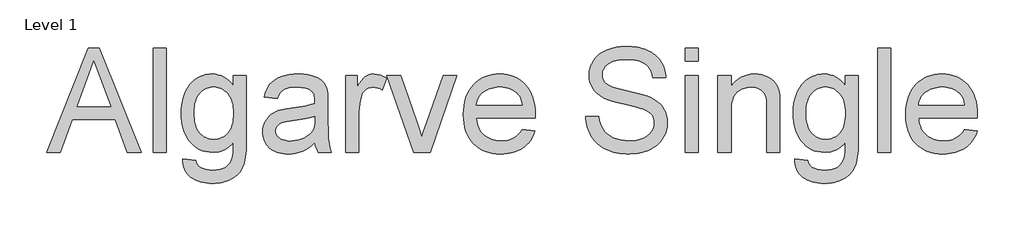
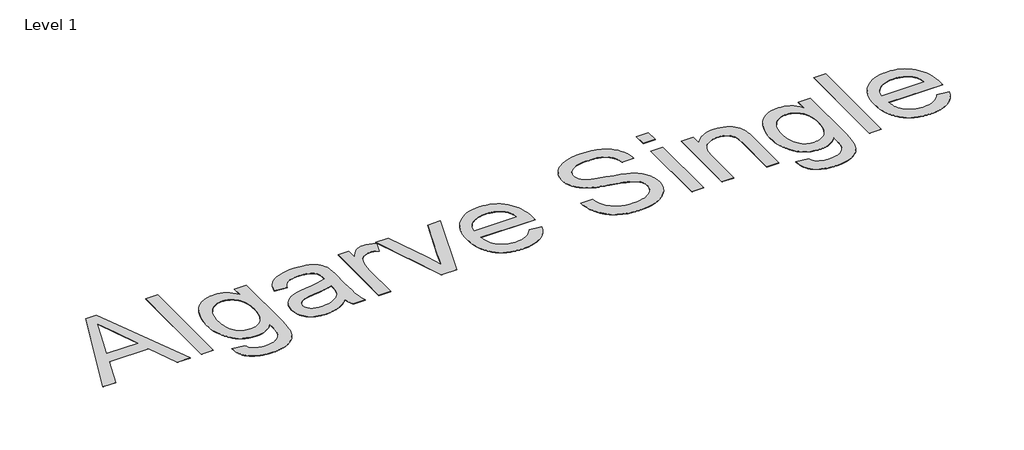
# One storey, part 26 of 47: 1 proxy.
"""IFC4 building model written with IfcOpenShell, lengths in millimetres."""

from ifc_helpers import new_model, si_unit, origin, origin_with_axes, place, context, project, spatial, polyline, outline, extrude, element, save

model = new_model("IFC4")

# Units and contexts
model_context = context("Model", 3, world=origin())
ifc_project = project(units=[si_unit("LENGTHUNIT", "METRE", prefix="MILLI")], contexts=[model_context])

# Site, building, storey
site = spatial("IfcSite", under=ifc_project)
building = spatial("IfcBuilding", under=site)
storey = spatial("IfcBuildingStorey", under=building, Name="Level 1", Elevation=0.0)

# Proxy
placement = place(None, origin())
element("IfcBuildingElementProxy", 1, Name="2500 mm Arial", ObjectType="2500 mm Arial", at=placement, inside=storey, context=model_context, shape_type="SweptSolid", body=[
    extrude(outline(polyline([(-19127.7672329, 76741.8832107), (-18125.288796, 79253.2909644), (-17857.9612129, 79253.2909644), (-16855.482776, 76741.8832107), (-17187.1897083, 76741.8832107), (-17474.7508012, 77526.6981337), (-18509.1123443, 77526.6981337), (-18796.0603006, 76741.8832107), (-19127.7672329, 76741.8832107)]), holes=[polyline([(-18393.8426525, 77840.6241029), (-17589.4073564, 77840.6241029), (-17815.6547834, 78458.0527182), (-17991.6250045, 78939.3649952), (-18147.9748524, 78512.0087441), (-18393.8426525, 77840.6241029)])]), origin_with_axes(), (0.0, 0.0, 1.0), 5.0),
    extrude(outline(polyline([(-16559.3377699, 76741.8832107), (-16559.3377699, 79253.2909644), (-16245.4118007, 79253.2909644), (-16245.4118007, 76741.8832107), (-16559.3377699, 76741.8832107)])), origin_with_axes(), (0.0, 0.0, 1.0), 5.0),
    extrude(outline(polyline([(-15853.0043392, 76584.9202261), (-15539.0783699, 76545.6794799), (-15525.8192897, 76492.7964431), (-15504.4361487, 76447.5776145), (-15474.928947, 76410.0229942), (-15437.2976846, 76380.1325821), (-15376.4055502, 76349.5523912), (-15305.3200188, 76327.7093978), (-15224.0410905, 76314.6036017), (-15132.5687653, 76310.235003), (-15034.543542, 76315.1784173), (-14948.3211994, 76330.0086602), (-14909.6361083, 76341.1313424), (-14873.9017374, 76354.7257318), (-14841.1180867, 76370.7918283), (-14811.2851562, 76389.329632), (-14759.1685402, 76432.8623347), (-14716.2489741, 76484.3658141), (-14682.5264578, 76543.8400699), (-14658.0009915, 76611.2851024), (-14647.9225577, 76666.812291), (-14640.9864492, 76746.3284514), (-14637.1926661, 76849.8335836), (-14636.5412084, 76977.3276876), (-14687.2591064, 76922.1453883), (-14741.0043667, 76874.3207289), (-14797.7769891, 76833.8537095), (-14857.5769739, 76800.7443299), (-14920.4043209, 76774.9925902), (-14986.2590301, 76756.5984905), (-15055.1411016, 76745.5620306), (-15127.0505353, 76741.8832107), (-15215.6823134, 76746.165587), (-15299.1694917, 76759.0127161), (-15377.5120703, 76780.4245978), (-15450.710049, 76810.4012323), (-15518.763428, 76848.9426194), (-15581.6722072, 76896.0487593), (-15639.4363866, 76951.7196518), (-15692.0559663, 77015.9552971), (-15738.975291, 77086.178605), (-15779.6387059, 77159.8124856), (-15814.0462107, 77236.8569389), (-15842.1978056, 77317.3119648), (-15864.0934905, 77401.1775634), (-15879.7332654, 77488.4537346), (-15889.1171303, 77579.1404786), (-15892.2450853, 77673.2377951), (-15886.6310528, 77802.5138275), (-15869.7889552, 77926.6931614), (-15841.7187925, 78045.7757968), (-15802.4205648, 78159.7617338), (-15778.7094206, 78213.8949945), (-15752.4882482, 78264.8571891), (-15723.7570476, 78312.6483176), (-15692.5158188, 78357.2683799), (-15658.7645618, 78398.7173761), (-15622.5032766, 78436.9953061), (-15583.7319632, 78472.1021699), (-15542.4506216, 78504.0379676), (-15498.9801905, 78532.4913406), (-15453.6416087, 78557.1509306), (-15406.4348761, 78578.0167375), (-15357.3599927, 78595.0887614), (-15306.4169586, 78608.3670021), (-15253.6057738, 78617.8514598), (-15198.9264382, 78623.5421344), (-15142.3789518, 78625.439026), (-15067.2792914, 78621.1470694), (-14995.5710431, 78608.2711995), (-14927.254207, 78586.8114165), (-14862.328783, 78556.7677202), (-14800.7947711, 78518.1401107), (-14742.6521714, 78470.928588), (-14687.9009839, 78415.1331521), (-14636.5412084, 78350.7538029), (-14636.5412084, 78586.1982798), (-14322.6152392, 78586.1982798), (-14322.6152392, 76993.8823774), (-14327.980185, 76794.3638765), (-14334.6863672, 76706.3739759), (-14344.0750223, 76626.2303084), (-14356.1461502, 76553.9328742), (-14370.8997511, 76489.481673), (-14388.3358248, 76432.8767051), (-14408.4543714, 76384.1179704), (-14431.480527, 76340.4559341), (-14457.6394278, 76299.1410616), (-14486.9310736, 76260.1733528), (-14519.3554646, 76223.5528079), (-14554.9126006, 76189.2794267), (-14593.6024818, 76157.3532093), (-14635.4251081, 76127.7741556), (-14680.3804795, 76100.5422657), (-14728.2482501, 76076.112602), (-14778.8080738, 76054.9402268), (-14832.0599506, 76037.02514), (-14888.0038806, 76022.3673418), (-14946.6398637, 76010.966832), (-15007.9678999, 76002.8236108), (-15071.9879893, 75997.937678), (-15138.7001319, 75996.3090338), (-15217.5408839, 75998.6035061), (-15292.5016306, 76005.4869231), (-15363.5823718, 76016.9592848), (-15430.7831076, 76033.0205912), (-15494.103838, 76053.6708423), (-15553.544563, 76078.910038), (-15609.1052825, 76108.7381784), (-15660.7859967, 76143.1552635), (-15707.3125308, 76182.1804538), (-15747.4107102, 76225.8329098), (-15781.080535, 76274.1126316), (-15808.3220052, 76327.019619), (-15829.1351206, 76384.5538722), (-15843.5198815, 76446.7153911), (-15851.4762876, 76513.5041757), (-15853.0043392, 76584.9202261)]), holes=[polyline([(-15578.3191161, 77694.6975782), (-15576.2258292, 77614.2760832), (-15569.9459686, 77539.4782009), (-15559.4795342, 77470.3039315), (-15544.8265261, 77406.7532749), (-15525.9869443, 77348.826231), (-15502.9607886, 77296.5228), (-15475.7480593, 77249.8429817), (-15444.3487562, 77208.7867762), (-15409.7879672, 77172.9326521), (-15373.0907801, 77141.8590778), (-15334.2571951, 77115.5660535), (-15293.2872119, 77094.053579), (-15250.1808307, 77077.3216544), (-15204.9380515, 77065.3702797), (-15157.5588742, 77058.1994548), (-15108.0432989, 77055.8091799), (-15059.0737985, 77058.1850844), (-15012.1065724, 77065.3127981), (-14967.1416207, 77077.1923209), (-14924.1789434, 77093.8236527), (-14883.2185406, 77115.2067937), (-14844.2604121, 77141.3417438), (-14807.304558, 77172.2285029), (-14772.3509783, 77207.8670712), (-14740.5205635, 77248.5927577), (-14712.934204, 77294.7408716), (-14689.5918998, 77346.3114127), (-14670.4936509, 77403.3043812), (-14655.6394573, 77465.719777), (-14645.0293191, 77533.5576001), (-14638.6632361, 77606.8178505), (-14636.5412084, 77685.5005283), (-14638.7255078, 77760.6816209), (-14645.2784058, 77831.1013242), (-14656.1999026, 77896.7596381), (-14671.489998, 77957.6565627), (-14691.1486921, 78013.7920978), (-14715.1759849, 78065.1662436), (-14743.5718764, 78111.7790001), (-14776.3363666, 78153.6303672), (-14812.1761204, 78190.6341225), (-14849.7978025, 78222.7040439), (-14889.2014131, 78249.8401311), (-14930.3869521, 78272.0423844), (-14973.3544195, 78289.3108035), (-15018.1038153, 78301.6453887), (-15064.6351396, 78309.0461397), (-15112.9483922, 78311.5130568), (-15160.4808536, 78309.0844608), (-15206.2026459, 78301.7986728), (-15250.1137689, 78289.6556929), (-15292.2142228, 78272.655521), (-15332.5040074, 78250.7981572), (-15370.9831229, 78224.0836013), (-15407.6515691, 78192.5118536), (-15442.5093462, 78156.0829138), (-15474.339761, 78114.8734242), (-15501.9261205, 78068.9600267), (-15525.2684247, 78018.3427215), (-15544.3666736, 77963.0215084), (-15559.2208672, 77902.9963876), (-15569.8310055, 77838.2673589), (-15576.1970884, 77768.8344224), (-15578.3191161, 77694.6975782)])]), origin_with_axes(), (0.0, 0.0, 1.0), 5.0),
    extrude(outline(polyline([(-12674.5039008, 76977.3276876), (-12748.9425233, 76907.4684295), (-12824.492456, 76848.7222734), (-12901.1536988, 76801.0892193), (-12978.9262518, 76764.569267), (-13058.691499, 76737.4762909), (-13141.3308243, 76718.1241652), (-13226.8442277, 76706.5128897), (-13315.2317091, 76702.6424645), (-13387.2704764, 76704.9704678), (-13455.0077067, 76711.9544775), (-13518.4434003, 76723.5944938), (-13577.5775569, 76739.8905165), (-13632.4101767, 76760.8425458), (-13682.9412596, 76786.4505815), (-13729.1708056, 76816.7146238), (-13771.0988148, 76851.6346726), (-13808.389978, 76890.1760597), (-13840.7089861, 76931.3041171), (-13868.0558391, 76975.0188449), (-13890.430537, 77021.3202428), (-13907.8330798, 77070.2083111), (-13920.2634675, 77121.6830497), (-13927.7217002, 77175.7444585), (-13930.2077777, 77232.3925376), (-13926.4523157, 77298.9561861), (-13915.1859296, 77362.5307934), (-13896.4086194, 77423.1163595), (-13870.1203852, 77480.7128843), (-13837.7199449, 77534.0557736), (-13800.6060165, 77581.880433), (-13758.7786001, 77624.1868624), (-13712.2376956, 77660.975062), (-13661.8263659, 77692.9348103), (-13608.387674, 77720.7558862), (-13551.9216199, 77744.4382896), (-13492.4282034, 77763.9820206), (-13379.4577741, 77788.0476345), (-13220.8086637, 77811.1935433), (-13048.1340522, 77834.9525888), (-12899.8316229, 77860.8576127), (-12775.9013758, 77888.9086148), (-12676.3433108, 77919.1055952), (-12674.5039008, 77989.0031743), (-12679.9071676, 78065.1087621), (-12686.6612511, 78098.6205126), (-12696.1169681, 78129.1049008), (-12708.2743184, 78156.5619268), (-12723.1333021, 78180.9915906), (-12740.6939192, 78202.393892), (-12760.9561697, 78220.7688313), (-12791.8620894, 78242.0370091), (-12826.3318659, 78260.4694299), (-12864.3654993, 78276.0660937), (-12905.9629895, 78288.8270004), (-12951.1243365, 78298.7521501), (-12999.8495403, 78305.8415427), (-13107.9915185, 78311.5130568), (-13208.5459305, 78307.7384342), (-13294.9981994, 78296.4145665), (-13367.3483251, 78277.5414538), (-13398.2350843, 78265.2739305), (-13425.5963077, 78251.1190959), (-13450.3612805, 78234.559616), (-13473.4592881, 78215.0781567), (-13514.6544073, 78167.3492999), (-13549.1816654, 78107.9325256), (-13577.0410623, 78036.8278337), (-13890.9670316, 78076.0685798), (-13867.0738624, 78166.506237), (-13836.474511, 78247.7468443), (-13799.1689774, 78319.7904017), (-13755.1572617, 78382.6369092), (-13702.5424721, 78437.5509612), (-13639.4277174, 78485.797152), (-13565.8129973, 78527.3754816), (-13481.6983119, 78562.2859501), (-13388.7889476, 78589.9154208), (-13288.7901907, 78609.650757), (-13181.7020412, 78621.4919587), (-13067.524499, 78625.439026), (-12955.9144666, 78621.9518112), (-12855.302573, 78611.490167), (-12765.6888183, 78594.0540933), (-12687.0732023, 78569.64359), (-12618.8042675, 78539.9639437), (-12560.2305561, 78506.7204405), (-12511.3520681, 78469.9130804), (-12472.1688035, 78429.5418635), (-12440.4006604, 78384.6104428), (-12413.7675368, 78334.122471), (-12392.2694327, 78278.0779483), (-12375.9063481, 78216.4768747), (-12369.2001659, 78169.4186361), (-12364.4100357, 78107.9516861), (-12360.5779316, 77941.7916516), (-12360.5779316, 77551.2236001), (-12356.5925433, 77211.0093966), (-12351.610808, 77091.5435508), (-12344.6363785, 77005.8385422), (-12334.7495499, 76937.7228915), (-12321.0306171, 76871.0251194), (-12303.4795803, 76805.7452258), (-12282.0964393, 76741.8832107), (-12596.0224085, 76741.8832107), (-12623.9201265, 76794.306395), (-12646.2996145, 76851.0215359), (-12663.1608727, 76912.0286334), (-12674.5039008, 76977.3276876)]), holes=[polyline([(-12674.5039008, 77605.179626), (-12769.3867988, 77578.0100078), (-12885.4229114, 77552.9097259), (-13022.6122388, 77529.8787801), (-13180.9547809, 77508.9171706), (-13343.8192058, 77484.8515568), (-13404.3856114, 77471.7840817), (-13451.041479, 77458.026828), (-13488.4619757, 77442.27688), (-13521.3222685, 77423.2313226), (-13549.6223574, 77400.8901556), (-13573.3622424, 77375.253379), (-13592.1395526, 77347.2406979), (-13605.551917, 77317.7718173), (-13613.5993356, 77286.8467371), (-13616.2818085, 77254.4654573), (-13610.4378497, 77205.6827719), (-13592.9059734, 77161.115401), (-13563.6861795, 77120.7633447), (-13522.778468, 77084.6266028), (-13498.0374458, 77068.6754695), (-13470.5660495, 77054.8511539), (-13407.4321341, 77033.582976), (-13333.3767221, 77020.8220693), (-13248.3998133, 77016.5684337), (-13161.6409761, 77021.2627613), (-13079.7872322, 77035.3457439), (-13002.8385815, 77058.8173816), (-12930.7950241, 77091.6776744), (-12865.8025383, 77131.2058284), (-12810.0071024, 77174.6810496), (-12763.4087163, 77222.103338), (-12726.0073802, 77273.4726937), (-12704.2793498, 77319.4579431), (-12688.7593281, 77375.253379), (-12679.4473151, 77440.8590015), (-12676.3433108, 77516.2748105), (-12674.5039008, 77605.179626)])]), origin_with_axes(), (0.0, 0.0, 1.0), 5.0),
    extrude(outline(polyline([(-11928.9297239, 76741.8832107), (-11928.9297239, 78586.1982798), (-11654.2445009, 78586.1982798), (-11654.2445009, 78313.3524667), (-11602.5110953, 78400.5711564), (-11552.7703839, 78471.5417247), (-11505.0223666, 78526.2641714), (-11459.2670434, 78564.7384968), (-11413.4350782, 78591.2949783), (-11365.4571347, 78610.2638937), (-11315.3332128, 78621.6452429), (-11263.0633127, 78625.439026), (-11185.194957, 78619.3843015), (-11106.7134647, 78601.220128), (-11027.6188358, 78570.9465054), (-10947.9110701, 78528.5634339), (-11052.7574388, 78247.1337076), (-11107.939738, 78275.2996729), (-11163.1220373, 78295.4182195), (-11218.3043366, 78307.4893474), (-11273.4866359, 78311.5130568), (-11321.5987031, 78307.6426316), (-11367.2199026, 78296.0313561), (-11410.3502344, 78276.6792303), (-11450.9896985, 78249.5862542), (-11487.6054534, 78215.6338118), (-11518.6646572, 78175.7032869), (-11544.1673101, 78129.7946796), (-11564.1134121, 78077.9079898), (-11586.377937, 77992.2221418), (-11602.2811691, 77902.5509055), (-11611.8231083, 77808.8942809), (-11615.0037547, 77711.252268), (-11615.0037547, 76741.8832107), (-11928.9297239, 76741.8832107)])), origin_with_axes(), (0.0, 0.0, 1.0), 5.0),
    extrude(outline(polyline([(-10299.2124853, 76741.8832107), (-10947.9110701, 78586.1982798), (-10615.5910012, 78586.1982798), (-10222.570403, 77481.326021), (-10160.7968846, 77298.917865), (-10104.2350279, 77109.7652059), (-10054.4176744, 77270.4070104), (-9988.3521994, 77460.4793746), (-9592.8790546, 78586.1982798), (-9260.5589856, 78586.1982798), (-9901.2867939, 76741.8832107), (-10299.2124853, 76741.8832107)])), origin_with_axes(), (0.0, 0.0, 1.0), 5.0),
    extrude(outline(polyline([(-7694.6079595, 77291.2536568), (-7386.8133568, 77252.0129107), (-7408.3449918, 77188.5436862), (-7434.005719, 77128.7341212), (-7463.7955384, 77072.5842157), (-7497.71445, 77020.0939695), (-7535.7624537, 76971.2633828), (-7577.9395496, 76926.0924556), (-7624.2457378, 76884.5811877), (-7674.6810181, 76846.7295793), (-7728.9963038, 76812.9591618), (-7786.9425081, 76783.6914666), (-7848.5196312, 76758.9264937), (-7913.7276728, 76738.6642432), (-7982.5666332, 76722.904715), (-8055.0365121, 76711.6479092), (-8131.1373098, 76704.8938257), (-8210.869026, 76702.6424645), (-8310.9156842, 76706.5272601), (-8405.6548783, 76718.1816467), (-8495.0866081, 76737.6056245), (-8579.2108737, 76764.7991933), (-8658.0276751, 76799.7623532), (-8731.5370123, 76842.4951043), (-8799.7388853, 76892.9974464), (-8862.6332941, 76951.2693796), (-8919.1089286, 77016.5540633), (-8968.0544784, 77088.0946571), (-9009.4699436, 77165.8911608), (-9043.3553243, 77249.9435744), (-9069.7106203, 77340.2518981), (-9088.5358318, 77436.8161317), (-9099.8309587, 77539.6362752), (-9103.596001, 77648.7123288), (-9099.7926377, 77761.5007332), (-9088.3825476, 77867.7937211), (-9069.365731, 77967.5912926), (-9042.7421876, 78060.8934475), (-9008.5119176, 78147.700186), (-8966.6749209, 78228.0115081), (-8917.2311975, 78301.8274136), (-8860.1807475, 78369.1479027), (-8797.0659927, 78429.2161347), (-8729.4293551, 78481.2752691), (-8657.2708345, 78525.3253059), (-8580.5904312, 78561.3662452), (-8499.388145, 78589.3980868), (-8413.6639759, 78609.4208308), (-8323.4179239, 78621.4344772), (-8228.6499891, 78625.439026), (-8136.9812685, 78621.4440574), (-8049.5949243, 78609.4591518), (-7966.4909564, 78589.4843091), (-7887.6693648, 78561.5195293), (-7813.1301497, 78525.5648124), (-7742.8733108, 78481.6201585), (-7676.8988483, 78429.6855675), (-7615.2067622, 78369.7610393), (-7559.3777953, 78302.5938344), (-7510.9926907, 78228.9312131), (-7470.0514484, 78148.7731752), (-7436.5540683, 78062.1197209), (-7410.5005504, 77968.9708501), (-7391.8908948, 77869.3265628), (-7380.7251014, 77763.186859), (-7377.0031703, 77650.5517388), (-7378.8425803, 77565.9388799), (-8789.6700318, 77565.9388799), (-8782.8249358, 77501.3583452), (-8771.4866977, 77440.6673963), (-8755.6553176, 77383.866033), (-8735.3307954, 77330.9542555), (-8710.5131311, 77281.9320635), (-8681.2023248, 77236.7994573), (-8647.3983763, 77195.5564368), (-8609.1012858, 77158.2030019), (-8567.3074003, 77125.0074), (-8523.0130668, 77096.2378783), (-8476.2182854, 77071.8944369), (-8426.9230561, 77051.9770758), (-8375.1273788, 77036.4857949), (-8320.8312536, 77025.4205942), (-8264.0346805, 77018.7814739), (-8204.7376594, 77016.5684337), (-8117.9021802, 77020.6687851), (-8037.65792, 77032.9698394), (-7964.0048788, 77053.4715964), (-7896.9430568, 77082.1740562), (-7836.4724538, 77119.8436397), (-7782.59307, 77167.2467676), (-7735.3049052, 77224.38344), (-7694.6079595, 77291.2536568)]), holes=[polyline([(-8789.6700318, 77879.8648491), (-7690.9291395, 77879.8648491), (-7707.0622978, 77968.6930225), (-7718.9514009, 78008.681029), (-7733.3888531, 78045.7183152), (-7750.3746546, 78079.8048814), (-7769.9088053, 78110.9407273), (-7791.9913053, 78139.1258531), (-7816.6221545, 78164.3602587), (-7857.9513974, 78198.8491957), (-7902.2313605, 78228.7396078), (-7949.4620437, 78254.031495), (-7999.6434471, 78274.7248572), (-8052.7755707, 78290.8196945), (-8108.8584144, 78302.3160069), (-8167.8919784, 78309.2137943), (-8229.8762624, 78311.5130568), (-8286.2129831, 78309.6784369), (-8340.2600215, 78304.1745774), (-8392.0173777, 78295.0014782), (-8441.4850518, 78282.1591392), (-8488.6630436, 78265.6475606), (-8533.5513531, 78245.4667423), (-8576.1499805, 78221.6166843), (-8616.4589257, 78194.0973866), (-8653.4339403, 78163.5028254), (-8686.0307759, 78130.4269767), (-8714.2494326, 78094.8698407), (-8738.0899104, 78056.8314172), (-8757.5522091, 78016.3117063), (-8772.636329, 77973.310708), (-8783.3422698, 77927.8284222), (-8789.6700318, 77879.8648491)])]), origin_with_axes(), (0.0, 0.0, 1.0), 5.0),
    extrude(outline(polyline([(-6160.5400396, 77605.179626), (-5846.6140704, 77605.179626), (-5832.2436799, 77513.8031034), (-5810.5922917, 77430.9721729), (-5781.6599056, 77356.6868346), (-5745.4465217, 77290.9470885), (-5700.11273, 77232.4308586), (-5643.8191205, 77179.8160691), (-5576.5656933, 77133.1027199), (-5498.3524483, 77092.2908111), (-5412.0534636, 77059.162271), (-5320.5428173, 77035.4990281), (-5223.8205094, 77021.3010823), (-5121.8865399, 77016.5684337), (-5031.71713, 77020.1514511), (-4946.989308, 77030.9005031), (-4867.7030738, 77048.8155899), (-4793.8584275, 77073.8967113), (-4727.2756185, 77105.243323), (-4669.7748962, 77141.9548804), (-4621.3562607, 77184.0313836), (-4582.0197119, 77231.4728326), (-4551.5736447, 77282.2290516), (-4529.8264539, 77334.249865), (-4516.7781394, 77387.5352727), (-4512.4287012, 77442.0852748), (-4515.6859897, 77496.4053507), (-4525.4578552, 77547.1615697), (-4541.7442977, 77594.3539319), (-4564.5453172, 77637.9824373), (-4597.4247705, 77678.277012), (-4643.9465145, 77715.4675825), (-4704.1105491, 77749.5541486), (-4777.9168744, 77780.5367104), (-4845.11282, 77802.5138275), (-4943.6936984, 77829.8175693), (-5235.0102534, 77900.4049272), (-5398.5452965, 77940.5462178), (-5535.0640057, 77979.7294824), (-5644.5663808, 78017.9547209), (-5727.0524219, 78055.2219335), (-5810.8796995, 78105.2308922), (-5883.3256278, 78160.8347229), (-5944.3902069, 78222.0334256), (-5994.0734368, 78288.8270004), (-6032.5669226, 78360.5256684), (-6060.0622696, 78436.439651), (-6076.5594779, 78516.568948), (-6082.0585473, 78600.9135596), (-6080.3580511, 78648.0436501), (-6075.2565625, 78694.3977396), (-6066.7540815, 78739.9758279), (-6054.850608, 78784.7779151), (-6039.5461422, 78828.8040013), (-6020.840684, 78872.0540864), (-5998.7342334, 78914.5281704), (-5973.2267904, 78956.2262533), (-5944.4524786, 78996.2909018), (-5912.5454217, 79033.8646827), (-5877.5056197, 79068.9475959), (-5839.3330725, 79101.5396414), (-5798.0277803, 79131.6408192), (-5753.5897429, 79159.2511294), (-5706.0189605, 79184.3705719), (-5655.3154329, 79206.9991467), (-5547.8249124, 79244.4196434), (-5434.4329516, 79271.1485696), (-5315.1395504, 79287.1859253), (-5189.944709, 79292.5317106), (-5053.3685183, 79286.9368386), (-4925.0696724, 79270.1522225), (-4864.0242539, 79257.5637605), (-4805.0481715, 79242.1778625), (-4748.1414254, 79223.9945284), (-4693.3040155, 79203.0137584), (-4641.0532758, 79179.3217747), (-4591.9065406, 79153.0047997), (-4545.8638096, 79124.0628333), (-4502.925083, 79092.4958757), (-4463.0903607, 79058.3039267), (-4426.3596427, 79021.4869864), (-4392.7329291, 78982.0450548), (-4362.2102198, 78939.9781319), (-4334.9160582, 78895.8801937), (-4310.9749878, 78850.3452166), (-4290.3870084, 78803.3732004), (-4273.1521202, 78754.9641451), (-4259.270323, 78705.1180508), (-4248.7416169, 78653.8349175), (-4241.566002, 78601.1147451), (-4237.7434781, 78546.9575337), (-4551.6694473, 78546.9575337), (-4560.2150395, 78598.6717787), (-4572.6693779, 78647.1287353), (-4589.0324625, 78692.3284033), (-4609.3042932, 78734.2707829), (-4633.4848702, 78772.9558739), (-4661.5741934, 78808.3836765), (-4693.5722628, 78840.5541906), (-4729.4790783, 78869.4674161), (-4769.6107887, 78895.0467111), (-4814.2835424, 78917.2154334), (-4863.4973395, 78935.9735831), (-4917.25218, 78951.32116), (-4975.5480639, 78963.2581644), (-5038.3849912, 78971.784596), (-5105.7629618, 78976.900455), (-5177.6819758, 78978.6057413), (-5252.1684996, 78976.9196155), (-5321.4242012, 78971.8612381), (-5385.4490807, 78963.430609), (-5444.2431381, 78951.6277284), (-5497.8063734, 78936.4525961), (-5546.1387866, 78917.9052121), (-5589.2403776, 78895.9855766), (-5627.1111466, 78870.6936894), (-5660.1630446, 78843.0163174), (-5688.8080228, 78813.9402275), (-5713.0460814, 78783.4654195), (-5732.8772202, 78751.5918935), (-5748.3014392, 78718.3196495), (-5759.3187386, 78683.6486875), (-5765.9291182, 78647.5790075), (-5768.1325781, 78610.1106095), (-5766.5709956, 78577.73891), (-5761.8862483, 78546.8425706), (-5754.0783362, 78517.4215912), (-5743.1472592, 78489.4759719), (-5729.0930174, 78463.0057127), (-5711.9156107, 78438.0108136), (-5691.6150391, 78414.4912746), (-5668.1913027, 78392.4470957), (-5638.722422, 78370.9298311), (-5599.3667128, 78349.2976033), (-5550.1241749, 78327.5504125), (-5490.9948084, 78305.6882585), (-5343.0755895, 78261.6190612), (-5155.6090561, 78217.0900113), (-4965.4600498, 78173.6722717), (-4809.4934123, 78132.9370049), (-4687.7091435, 78094.8842111), (-4600.1072434, 78059.5138901), (-4503.8639485, 78005.9027535), (-4460.8150489, 77976.5967372), (-4421.1479811, 77945.6237557), (-4384.8627453, 77912.9838089), (-4351.9593413, 77878.6768968), (-4322.4377692, 77842.7030194), (-4296.298029, 77805.0621767), (-4273.3772563, 77765.8501714), (-4253.5125866, 77725.1628059), (-4236.7040199, 77683.0000804), (-4222.9515562, 77639.3619947), (-4212.2551956, 77594.248549), (-4204.614938, 77547.6597432), (-4198.502732, 77450.0560514), (-4200.2607097, 77400.5979576), (-4205.534643, 77351.8583834), (-4214.3245318, 77303.8373287), (-4226.6303762, 77256.5347935), (-4242.452176, 77209.9507778), (-4261.7899314, 77164.0852817), (-4284.6436424, 77118.9383051), (-4311.0133088, 77074.509848), (-4340.6833749, 77031.666924), (-4373.4382849, 76991.2765466), (-4409.2780386, 76953.3387158), (-4448.2026362, 76917.8534317), (-4490.2120776, 76884.8206942), (-4535.3063628, 76854.2405034), (-4583.4854918, 76826.1128592), (-4634.7494646, 76800.4377616), (-4688.3749716, 76777.5169888), (-4743.638703, 76757.6523191), (-4800.540659, 76740.8437524), (-4859.0808396, 76727.0912888), (-4919.2592446, 76716.3949282), (-4981.0758741, 76708.7546706), (-5109.6238067, 76702.6424645), (-5191.6164644, 76704.2902693), (-5270.2081297, 76709.2336836), (-5345.3988026, 76717.4727075), (-5417.1884831, 76729.0073408), (-5485.5771712, 76743.8375838), (-5550.5648668, 76761.9634362), (-5612.1515701, 76783.3848983), (-5670.337281, 76808.1019698), (-5725.3040244, 76836.1338114), (-5777.2338253, 76867.4995836), (-5826.1266837, 76902.1992864), (-5871.9825996, 76940.2329197), (-5914.801573, 76981.6004837), (-5954.5836038, 77026.3019782), (-5991.3286922, 77074.3374033), (-6025.036838, 77125.706759), (-6055.3200408, 77179.6053034), (-6081.7903, 77235.2282946), (-6104.4476156, 77292.5757327), (-6123.2919876, 77351.6476177), (-6138.323416, 77412.4439495), (-6149.5419008, 77474.9647281), (-6156.947442, 77539.2099537), (-6160.5400396, 77605.179626)])), origin_with_axes(), (0.0, 0.0, 1.0), 5.0),
    extrude(outline(polyline([(-3766.8545243, 76741.8832107), (-3766.8545243, 78586.1982798), (-3452.9285551, 78586.1982798), (-3452.9285551, 76741.8832107), (-3766.8545243, 76741.8832107)])), origin_with_axes(), (0.0, 0.0, 1.0), 5.0),
    extrude(outline(polyline([(-3766.8545243, 78939.3649952), (-3766.8545243, 79253.2909644), (-3452.9285551, 79253.2909644), (-3452.9285551, 78939.3649952), (-3766.8545243, 78939.3649952)])), origin_with_axes(), (0.0, 0.0, 1.0), 5.0),
    extrude(outline(polyline([(-2982.0396012, 76741.8832107), (-2982.0396012, 78586.1982798), (-2668.113632, 78586.1982798), (-2668.113632, 78328.6808832), (-2616.3227449, 78398.2335729), (-2559.0519489, 78458.5125707), (-2496.301244, 78509.5178765), (-2428.0706302, 78551.2494903), (-2354.3601075, 78583.7074122), (-2275.1696759, 78606.8916421), (-2190.4993355, 78620.80218), (-2100.3490861, 78625.439026), (-2021.3502598, 78621.7027245), (-1945.6087219, 78610.4938199), (-1873.1244726, 78591.8123124), (-1803.8975117, 78565.6582018), (-1740.5528306, 78533.4302061), (-1685.7154207, 78496.5270435), (-1639.385282, 78454.9487138), (-1601.5624143, 78408.6952172), (-1570.5032105, 78357.824035), (-1544.464063, 78302.392649), (-1523.4449719, 78242.401059), (-1507.4459372, 78177.8492652), (-1500.2032605, 78126.460749), (-1495.0299199, 78058.7474692), (-1490.8912475, 77874.3466192), (-1490.8912475, 76741.8832107), (-1804.8172167, 76741.8832107), (-1804.8172167, 77832.0401897), (-1807.0781581, 77919.0672742), (-1813.8609824, 77994.3681201), (-1825.1656895, 78057.9427274), (-1840.9922795, 78109.7910961), (-1862.5478652, 78153.4579225), (-1891.0395593, 78192.4879029), (-1926.4673619, 78226.8810374), (-1968.8312729, 78256.6373258), (-2016.6750928, 78280.6454581), (-2068.542622, 78297.794124), (-2124.4338605, 78308.0833236), (-2184.3488084, 78311.5130568), (-2232.8584564, 78309.5874244), (-2279.6723983, 78303.8105275), (-2324.7906341, 78294.1823659), (-2368.2131639, 78280.7029397), (-2409.9399876, 78263.3722488), (-2449.9711052, 78242.1902933), (-2488.3065168, 78217.1570732), (-2524.9462222, 78188.2725884), (-2558.5010839, 78154.0039973), (-2587.581964, 78112.8184583), (-2612.1888626, 78064.7159714), (-2632.3217796, 78009.6965366), (-2647.980715, 77947.7601538), (-2659.1656689, 77878.9068231), (-2665.8766412, 77803.1365444), (-2668.113632, 77720.4493178), (-2668.113632, 76741.8832107), (-2982.0396012, 76741.8832107)])), origin_with_axes(), (0.0, 0.0, 1.0), 5.0),
    extrude(outline(polyline([(-1137.7245321, 76584.9202261), (-823.7985629, 76545.6794799), (-810.5394826, 76492.7964431), (-789.1563417, 76447.5776145), (-759.64914, 76410.0229942), (-722.0178775, 76380.1325821), (-661.1257431, 76349.5523912), (-590.0402118, 76327.7093978), (-508.7612835, 76314.6036017), (-417.2889582, 76310.235003), (-319.2637349, 76315.1784173), (-233.0413923, 76330.0086602), (-194.3563012, 76341.1313424), (-158.6219303, 76354.7257318), (-125.8382796, 76370.7918283), (-96.0053491, 76389.329632), (-43.8887331, 76432.8623347), (-0.969167, 76484.3658141), (32.7533492, 76543.8400699), (57.2788156, 76611.2851024), (67.3572494, 76666.812291), (74.2933579, 76746.3284514), (78.0871409, 76849.8335836), (78.7385986, 76977.3276876), (28.0207006, 76922.1453883), (-25.7245596, 76874.3207289), (-82.4971821, 76833.8537095), (-142.2971668, 76800.7443299), (-205.1245138, 76774.9925902), (-270.979223, 76756.5984905), (-339.8612945, 76745.5620306), (-411.7707283, 76741.8832107), (-500.4025064, 76746.165587), (-583.8896847, 76759.0127161), (-662.2322632, 76780.4245978), (-735.4302419, 76810.4012323), (-803.4836209, 76848.9426194), (-866.3924001, 76896.0487593), (-924.1565796, 76951.7196518), (-976.7761592, 77015.9552971), (-1023.695484, 77086.178605), (-1064.3588988, 77159.8124856), (-1098.7664036, 77236.8569389), (-1126.9179985, 77317.3119648), (-1148.8136834, 77401.1775634), (-1164.4534583, 77488.4537346), (-1173.8373233, 77579.1404786), (-1176.9652782, 77673.2377951), (-1171.3512457, 77802.5138275), (-1154.5091481, 77926.6931614), (-1126.4389855, 78045.7757968), (-1087.1407578, 78159.7617338), (-1063.4296135, 78213.8949945), (-1037.2084411, 78264.8571891), (-1008.4772405, 78312.6483176), (-977.2360117, 78357.2683799), (-943.4847547, 78398.7173761), (-907.2234695, 78436.9953061), (-868.4521561, 78472.1021699), (-827.1708145, 78504.0379676), (-783.7003834, 78532.4913406), (-738.3618016, 78557.1509306), (-691.155069, 78578.0167375), (-642.0801857, 78595.0887614), (-591.1371516, 78608.3670021), (-538.3259667, 78617.8514598), (-483.6466311, 78623.5421344), (-427.0991447, 78625.439026), (-351.9994843, 78621.1470694), (-280.291236, 78608.2711995), (-211.9743999, 78586.8114165), (-147.0489759, 78556.7677202), (-85.5149641, 78518.1401107), (-27.3723644, 78470.928588), (27.3788232, 78415.1331521), (78.7385986, 78350.7538029), (78.7385986, 78586.1982798), (392.6645678, 78586.1982798), (392.6645678, 76993.8823774), (387.2996221, 76794.3638765), (380.5934399, 76706.3739759), (371.2047848, 76626.2303084), (359.1336568, 76553.9328742), (344.380056, 76489.481673), (326.9439822, 76432.8767051), (306.8254356, 76384.1179704), (283.79928, 76340.4559341), (257.6403793, 76299.1410616), (228.3487335, 76260.1733528), (195.9243425, 76223.5528079), (160.3672064, 76189.2794267), (121.6773253, 76157.3532093), (79.8546989, 76127.7741556), (34.8993275, 76100.5422657), (-12.968443, 76076.112602), (-63.5282667, 76054.9402268), (-116.7801435, 76037.02514), (-172.7240735, 76022.3673418), (-231.3600566, 76010.966832), (-292.6880929, 76002.8236108), (-356.7081823, 75997.937678), (-423.4203248, 75996.3090338), (-502.2610769, 75998.6035061), (-577.2218235, 76005.4869231), (-648.3025647, 76016.9592848), (-715.5033005, 76033.0205912), (-778.8240309, 76053.6708423), (-838.2647559, 76078.910038), (-893.8254755, 76108.7381784), (-945.5061896, 76143.1552635), (-992.0327237, 76182.1804538), (-1032.1309032, 76225.8329098), (-1065.800728, 76274.1126316), (-1093.0421981, 76327.019619), (-1113.8553136, 76384.5538722), (-1128.2400744, 76446.7153911), (-1136.1964806, 76513.5041757), (-1137.7245321, 76584.9202261)]), holes=[polyline([(-863.039309, 77694.6975782), (-860.9460222, 77614.2760832), (-854.6661615, 77539.4782009), (-844.1997272, 77470.3039315), (-829.546719, 77406.7532749), (-810.7071372, 77348.826231), (-787.6809816, 77296.5228), (-760.4682522, 77249.8429817), (-729.0689491, 77208.7867762), (-694.5081601, 77172.9326521), (-657.8109731, 77141.8590778), (-618.977388, 77115.5660535), (-578.0074048, 77094.053579), (-534.9010237, 77077.3216544), (-489.6582444, 77065.3702797), (-442.2790672, 77058.1994548), (-392.7634919, 77055.8091799), (-343.7939914, 77058.1850844), (-296.8267653, 77065.3127981), (-251.8618136, 77077.1923209), (-208.8991364, 77093.8236527), (-167.9387335, 77115.2067937), (-128.980605, 77141.3417438), (-92.0247509, 77172.2285029), (-57.0711713, 77207.8670712), (-25.2407564, 77248.5927577), (2.3456031, 77294.7408716), (25.6879073, 77346.3114127), (44.7861562, 77403.3043812), (59.6403497, 77465.719777), (70.250488, 77533.5576001), (76.616571, 77606.8178505), (78.7385986, 77685.5005283), (76.5542993, 77760.6816209), (70.0014012, 77831.1013242), (59.0799045, 77896.7596381), (43.7898091, 77957.6565627), (24.131115, 78013.7920978), (0.1038222, 78065.1662436), (-28.2920693, 78111.7790001), (-61.0565595, 78153.6303672), (-96.8963133, 78190.6341225), (-134.5179955, 78222.7040439), (-173.921606, 78249.8401311), (-215.107145, 78272.0423844), (-258.0746124, 78289.3108035), (-302.8240082, 78301.6453887), (-349.3553325, 78309.0461397), (-397.6685851, 78311.5130568), (-445.2010466, 78309.0844608), (-490.9228388, 78301.7986728), (-534.8339618, 78289.6556929), (-576.9344157, 78272.655521), (-617.2242003, 78250.7981572), (-655.7033158, 78224.0836013), (-692.3717621, 78192.5118536), (-727.2295391, 78156.0829138), (-759.059954, 78114.8734242), (-786.6463135, 78068.9600267), (-809.9886177, 78018.3427215), (-829.0868666, 77963.0215084), (-843.9410601, 77902.9963876), (-854.5511984, 77838.2673589), (-860.9172814, 77768.8344224), (-863.039309, 77694.6975782)])]), origin_with_axes(), (0.0, 0.0, 1.0), 5.0),
    extrude(outline(polyline([(863.5535217, 76741.8832107), (863.5535217, 79253.2909644), (1177.4794909, 79253.2909644), (1177.4794909, 76741.8832107), (863.5535217, 76741.8832107)])), origin_with_axes(), (0.0, 0.0, 1.0), 5.0),
    extrude(outline(polyline([(2939.6342478, 77291.2536568), (3247.4288504, 77252.0129107), (3225.8972154, 77188.5436862), (3200.2364882, 77128.7341212), (3170.4466688, 77072.5842157), (3136.5277573, 77020.0939695), (3098.4797535, 76971.2633828), (3056.3026576, 76926.0924556), (3009.9964695, 76884.5811877), (2959.5611892, 76846.7295793), (2905.2459035, 76812.9591618), (2847.2996991, 76783.6914666), (2785.7225761, 76758.9264937), (2720.5145344, 76738.6642432), (2651.6755741, 76722.904715), (2579.2056951, 76711.6479092), (2503.1048975, 76704.8938257), (2423.3731812, 76702.6424645), (2323.326523, 76706.5272601), (2228.587329, 76718.1816467), (2139.1555992, 76737.6056245), (2055.0313335, 76764.7991933), (1976.2145321, 76799.7623532), (1902.7051949, 76842.4951043), (1834.5033219, 76892.9974464), (1771.6089131, 76951.2693796), (1715.1332787, 77016.5540633), (1666.1877289, 77088.0946571), (1624.7722636, 77165.8911608), (1590.886883, 77249.9435744), (1564.5315869, 77340.2518981), (1545.7063754, 77436.8161317), (1534.4112486, 77539.6362752), (1530.6462063, 77648.7123288), (1534.4495696, 77761.5007332), (1545.8596596, 77867.7937211), (1564.8764763, 77967.5912926), (1591.5000196, 78060.8934475), (1625.7302896, 78147.700186), (1667.5672863, 78228.0115081), (1717.0110097, 78301.8274136), (1774.0614597, 78369.1479027), (1837.1762145, 78429.2161347), (1904.8128522, 78481.2752691), (1976.9713727, 78525.3253059), (2053.6517761, 78561.3662452), (2134.8540623, 78589.3980868), (2220.5782314, 78609.4208308), (2310.8242833, 78621.4344772), (2405.5922181, 78625.439026), (2497.2609387, 78621.4440574), (2584.647283, 78609.4591518), (2667.7512509, 78589.4843091), (2746.5728424, 78561.5195293), (2821.1120576, 78525.5648124), (2891.3688964, 78481.6201585), (2957.3433589, 78429.6855675), (3019.0354451, 78369.7610393), (3074.8644119, 78302.5938344), (3123.2495165, 78228.9312131), (3164.1907589, 78148.7731752), (3197.688139, 78062.1197209), (3223.7416568, 77968.9708501), (3242.3513125, 77869.3265628), (3253.5171058, 77763.186859), (3257.239037, 77650.5517388), (3255.399627, 77565.9388799), (1844.5721755, 77565.9388799), (1851.4172715, 77501.3583452), (1862.7555095, 77440.6673963), (1878.5868896, 77383.866033), (1898.9114118, 77330.9542555), (1923.7290761, 77281.9320635), (1953.0398825, 77236.7994573), (1986.8438309, 77195.5564368), (2025.1409214, 77158.2030019), (2066.934807, 77125.0074), (2111.2291404, 77096.2378783), (2158.0239218, 77071.8944369), (2207.3191511, 77051.9770758), (2259.1148284, 77036.4857949), (2313.4109536, 77025.4205942), (2370.2075267, 77018.7814739), (2429.5045478, 77016.5684337), (2516.3400271, 77020.6687851), (2596.5842873, 77032.9698394), (2670.2373284, 77053.4715964), (2737.2991504, 77082.1740562), (2797.7697534, 77119.8436397), (2851.6491373, 77167.2467676), (2898.9373021, 77224.38344), (2939.6342478, 77291.2536568)]), holes=[polyline([(1844.5721755, 77879.8648491), (2943.3130677, 77879.8648491), (2927.1799094, 77968.6930225), (2915.2908064, 78008.681029), (2900.8533541, 78045.7183152), (2883.8675526, 78079.8048814), (2864.3334019, 78110.9407273), (2842.2509019, 78139.1258531), (2817.6200527, 78164.3602587), (2776.2908098, 78198.8491957), (2732.0108468, 78228.7396078), (2684.7801635, 78254.031495), (2634.5987601, 78274.7248572), (2581.4666365, 78290.8196945), (2525.3837928, 78302.3160069), (2466.3502289, 78309.2137943), (2404.3659448, 78311.5130568), (2348.0292242, 78309.6784369), (2293.9821857, 78304.1745774), (2242.2248295, 78295.0014782), (2192.7571555, 78282.1591392), (2145.5791637, 78265.6475606), (2100.6908541, 78245.4667423), (2058.0922267, 78221.6166843), (2017.7832815, 78194.0973866), (1980.8082669, 78163.5028254), (1948.2114313, 78130.4269767), (1919.9927746, 78094.8698407), (1896.1522969, 78056.8314172), (1876.6899981, 78016.3117063), (1861.6058783, 77973.310708), (1850.8999374, 77927.8284222), (1844.5721755, 77879.8648491)])]), origin_with_axes(), (0.0, 0.0, 1.0), 5.0),
])

save(model, "model.ifc")
